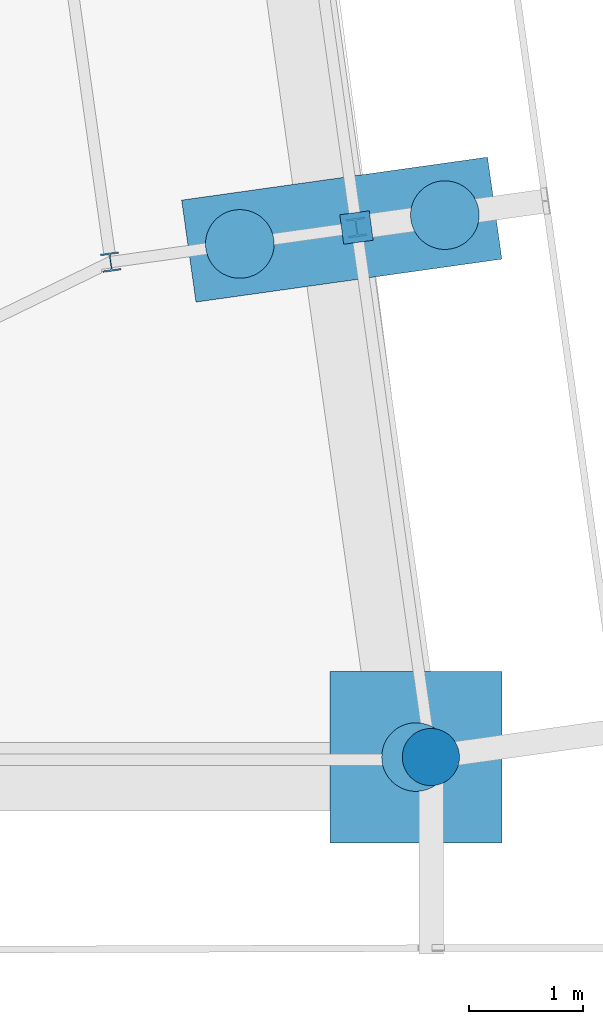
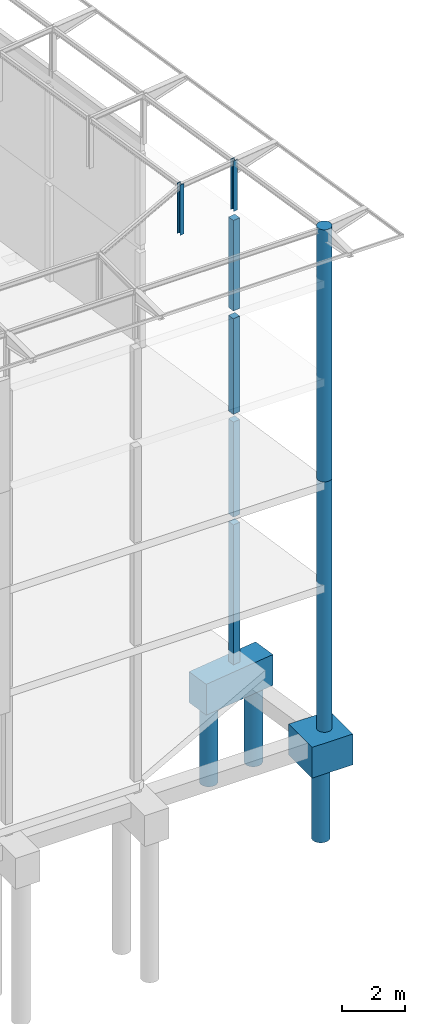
# One storey, part 56 of 82: 13 columns.
"""IFC2X3 building model written with IfcOpenShell, lengths in millimetres."""

from ifc_helpers import new_model, si_unit, frame, frame_2d, origin_with_axes, place, context, subcontext, project, spatial, rectangle, circle, i_section, extrude, material, type_object, element, save


model = new_model("IFC2X3")

# Units and contexts
model_context = context("Model", 3, precision=1e-05, world=origin_with_axes())
body_context = subcontext(model_context, "Body", "Model", "MODEL_VIEW")
ifc_project = project(units=[si_unit("LENGTHUNIT", "METRE", prefix="MILLI"), si_unit("AREAUNIT", "SQUARE_METRE"), si_unit("VOLUMEUNIT", "CUBIC_METRE"), si_unit("MASSUNIT", "GRAM", prefix="KILO"), si_unit("TIMEUNIT", "SECOND"), si_unit("PLANEANGLEUNIT", "RADIAN"), si_unit("SOLIDANGLEUNIT", "STERADIAN"), si_unit("THERMODYNAMICTEMPERATUREUNIT", "DEGREE_CELSIUS"), si_unit("LUMINOUSINTENSITYUNIT", "LUMEN")], contexts=[model_context])

# Site, building, storey
site_placement = place(None, origin_with_axes())
site = spatial("IfcSite", under=ifc_project, at=site_placement, Name="Undefined", CompositionType="ELEMENT")
building_placement = place(site_placement, origin_with_axes())
building = spatial("IfcBuilding", under=site, at=building_placement, Name="Undefined", CompositionType="ELEMENT")
storey_placement = place(building_placement, origin_with_axes())
storey = spatial("IfcBuildingStorey", under=building, at=storey_placement, Name="Undefined", CompositionType="ELEMENT", Elevation=0.0)

# Columns
ifc_material_1 = material(Name="CONCRETE/C25/30")
column_type_1 = type_object("IfcColumnType", Name="260*260", PredefinedType="NOTDEFINED")
column_1_placement = place(storey_placement, frame((67911.7471705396, 4650.88147275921, 13330.0), z_axis=(0.0, 0.0, 1.0), x_axis=(1.0, 0.0, 0.0)))
element("IfcColumn", 1, at=column_1_placement, inside=storey, type_object=column_type_1, material=ifc_material_1, Name="POTEAU", ObjectType="260*260", context=body_context, shape_type="SweptSolid", body=[
    extrude(rectangle(XDim=260.0, YDim=260.0, at=frame_2d((5.17284206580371e-08, 4.49290382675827e-10), x_axis=(1.0, 0.0))), frame((0.0, 0.0, 3529.99999999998), z_axis=(0.0, -6.50000002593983e-08, -0.999999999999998), x_axis=(0.132256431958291, -0.991215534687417, 0.0)), (0.0, 0.0, 1.0), 3530.0),
])
column_2_placement = place(storey_placement, frame((67911.7471705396, 4650.88147275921, 9305.0), z_axis=(0.0, 0.0, 1.0), x_axis=(1.0, 0.0, 0.0)))
element("IfcColumn", 2, at=column_2_placement, inside=storey, type_object=column_type_1, material=ifc_material_1, Name="POTEAU", ObjectType="260*260", context=body_context, shape_type="SweptSolid", body=[
    extrude(rectangle(XDim=260.0, YDim=260.0, at=frame_2d((5.17284206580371e-08, 4.49290382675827e-10), x_axis=(1.0, 0.0))), frame((0.0, 0.0, 3725.0), z_axis=(0.0, -6.50000002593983e-08, -0.999999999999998), x_axis=(0.132256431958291, -0.991215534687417, 0.0)), (0.0, 0.0, 1.0), 3725.0),
])
column_3_placement = place(storey_placement, frame((67911.7471705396, 4650.88147275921, 5300.0), z_axis=(0.0, 0.0, 1.0), x_axis=(1.0, 0.0, 0.0)))
element("IfcColumn", 3, at=column_3_placement, inside=storey, type_object=column_type_1, material=ifc_material_1, Name="POTEAU", ObjectType="260*260", context=body_context, shape_type="SweptSolid", body=[
    extrude(rectangle(XDim=260.0, YDim=260.0, at=frame_2d((5.17284206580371e-08, 4.49290382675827e-10), x_axis=(1.0, 0.0))), frame((0.0, 0.0, 3705.00000000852), z_axis=(0.0, -6.50000002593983e-08, -0.999999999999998), x_axis=(0.132256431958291, -0.991215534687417, 0.0)), (0.0, 0.0, 1.0), 3705.0),
])
column_4_placement = place(storey_placement, frame((67911.7471705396, 4650.88147275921, -450.0), z_axis=(0.0, 0.0, 1.0), x_axis=(1.0, 0.0, 0.0)))
element("IfcColumn", 4, at=column_4_placement, inside=storey, type_object=column_type_1, material=ifc_material_1, Name="POTEAU", ObjectType="260*260", context=body_context, shape_type="SweptSolid", body=[
    extrude(rectangle(XDim=260.0, YDim=260.0, at=frame_2d((5.17284206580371e-08, 4.49290382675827e-10), x_axis=(1.0, 0.0))), frame((0.0, 0.0, 5450.00000000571), z_axis=(0.0, -6.50000002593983e-08, -0.999999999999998), x_axis=(0.132256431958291, -0.991215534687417, 0.0)), (0.0, 0.0, 1.0), 5450.0),
])
ifc_material_2 = material(Name="STEEL/S275JR")
column_type_2 = type_object("IfcColumnType", Name="HEB160", PredefinedType="NOTDEFINED")
for number, where, z_axis, x_axis, name in (
    (5, (67911.7471705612, 4650.88147275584, 17160.0), (0.0, 0.0, 1.0), (1.0, 0.0, 0.0), "POTEAU"),
    (6, (65762.8654615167, 4348.87584312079, 17160.0), (0.0, 0.0, 1.0), (1.0, 0.0, 0.0), "POTEAU"),
):
    element("IfcColumn", number, at=place(storey_placement, frame(where, z_axis=z_axis, x_axis=x_axis)), inside=storey, type_object=column_type_2, material=ifc_material_2, Name=name, ObjectType="HEB160", context=body_context, shape_type="SweptSolid", body=[
        extrude(i_section(OverallWidth=160.0, OverallDepth=160.0, WebThickness=8.0, FlangeThickness=13.0, FilletRadius=15.0, at=frame_2d((5.17284206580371e-08, 4.49290382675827e-10), x_axis=(1.0, 0.0))), frame((0.0, 0.0, 1965.0), z_axis=(0.0, -6.50000002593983e-08, -0.999999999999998), x_axis=(-0.990268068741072, -0.13917310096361, 0.0)), (0.0, 0.0, 1.0), 1965.0),
    ])
column_type_3 = type_object("IfcColumnType", Name="D500", PredefinedType="NOTDEFINED")
column_5_placement = place(storey_placement, frame((68562.2438095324, 22.4007431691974, 9305.0), z_axis=(0.0, 0.0, 1.0), x_axis=(1.0, 0.0, 0.0)))
element("IfcColumn", 7, at=column_5_placement, inside=storey, type_object=column_type_3, material=ifc_material_1, Name="POTEAU", ObjectType="D500", context=body_context, shape_type="SweptSolid", body=[
    extrude(circle(Radius=250.0, at=frame_2d((5.17284206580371e-08, 4.49290382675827e-10), x_axis=(1.0, 0.0))), frame((0.0, 0.0, 9820.0), z_axis=(0.0, -6.50000002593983e-08, -0.999999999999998), x_axis=(-1.0, 0.0, 0.0)), (0.0, 0.0, 1.0), 9820.0),
])
column_6_placement = place(storey_placement, frame((68562.2438095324, 22.4007431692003, -450.0), z_axis=(0.0, 0.0, 1.0), x_axis=(1.0, 0.0, 0.0)))
element("IfcColumn", 8, at=column_6_placement, inside=storey, type_object=column_type_3, material=ifc_material_1, Name="POTEAU", ObjectType="D500", context=body_context, shape_type="SweptSolid", body=[
    extrude(circle(Radius=250.0, at=frame_2d((5.17284206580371e-08, 4.49290382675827e-10), x_axis=(1.0, 0.0))), frame((0.0, 0.0, 9755.0), z_axis=(0.0, -6.50000002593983e-08, -0.999999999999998), x_axis=(-1.0, 0.0, 0.0)), (0.0, 0.0, 1.0), 9755.0),
])
ifc_material_3 = material(Name="CONCRETE/C30/37")
column_type_4 = type_object("IfcColumnType", Name="2700*900", PredefinedType="NOTDEFINED")
column_7_placement = place(storey_placement, frame((67783.0119845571, 4632.78759353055, -1650.00000000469), z_axis=(0.0, 0.0, 1.0), x_axis=(1.0, 0.0, 0.0)))
element("IfcColumn", 9, at=column_7_placement, inside=storey, type_object=column_type_4, material=ifc_material_3, Name="SEMELLE", ObjectType="2700*900", context=body_context, shape_type="SweptSolid", body=[
    extrude(rectangle(XDim=900.0, YDim=2700.0, at=frame_2d((5.17284206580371e-08, 4.49290382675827e-10), x_axis=(1.0, 0.0))), frame((0.0, 0.0, 1200.0), z_axis=(0.0, -6.50000002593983e-08, -0.999999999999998), x_axis=(0.13917310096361, -0.990268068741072, 0.0)), (0.0, 0.0, 1.0), 1200.0),
])
column_type_5 = type_object("IfcColumnType", Name="1500*1500", PredefinedType="NOTDEFINED")
column_8_placement = place(storey_placement, frame((68432.2451511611, 22.367496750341, -1650.0), z_axis=(0.0, 0.0, 1.0), x_axis=(1.0, 0.0, 0.0)))
element("IfcColumn", 10, at=column_8_placement, inside=storey, type_object=column_type_5, material=ifc_material_3, Name="SEMELLE", ObjectType="1500*1500", context=body_context, shape_type="SweptSolid", body=[
    extrude(rectangle(XDim=1500.0, YDim=1500.0, at=frame_2d((5.17284206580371e-08, 4.49290382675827e-10), x_axis=(1.0, 0.0))), frame((0.0, 0.0, 1200.0), z_axis=(0.0, -6.50000002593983e-08, -0.999999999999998), x_axis=(-1.0, 0.0, 0.0)), (0.0, 0.0, 1.0), 1200.0),
])
column_type_6 = type_object("IfcColumnType", Name="D600", PredefinedType="NOTDEFINED")
column_9_placement = place(storey_placement, frame((68432.2448619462, 22.3652876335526, -4675.0), z_axis=(0.0, 0.0, 1.0), x_axis=(1.0, 0.0, 0.0)))
element("IfcColumn", 11, at=column_9_placement, inside=storey, type_object=column_type_6, material=ifc_material_1, Name="PIEU", ObjectType="D600", context=body_context, shape_type="SweptSolid", body=[
    extrude(circle(Radius=300.0, at=frame_2d((5.17284206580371e-08, 4.49290382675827e-10), x_axis=(1.0, 0.0))), frame((0.0, 0.0, 3250.0), z_axis=(0.0, -6.50000002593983e-08, -0.999999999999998), x_axis=(-1.0, 0.0, 0.0)), (0.0, 0.0, 1.0), 3250.0),
])
for number, where, z_axis, x_axis in (
    (12, (66891.7762919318, 4507.54124749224, -4675.0), (0.0, 0.0, 1.0), (1.0, 0.0, 0.0)),
    (13, (68684.1614964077, 4759.44456023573, -4675.0), (0.0, 0.0, 1.0), (1.0, 0.0, 0.0)),
):
    element("IfcColumn", number, at=place(storey_placement, frame(where, z_axis=z_axis, x_axis=x_axis)), inside=storey, type_object=column_type_6, material=ifc_material_1, Name="PIEU", ObjectType="D600", context=body_context, shape_type="SweptSolid", body=[
        extrude(circle(Radius=300.0, at=frame_2d((5.17284206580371e-08, 4.49290382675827e-10), x_axis=(1.0, 0.0))), frame((0.0, 0.0, 3250.0), z_axis=(0.0, -6.50000002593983e-08, -0.999999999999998), x_axis=(-0.132256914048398, 0.991215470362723, 0.0)), (0.0, 0.0, 1.0), 3250.0),
    ])

save(model, "model.ifc")
